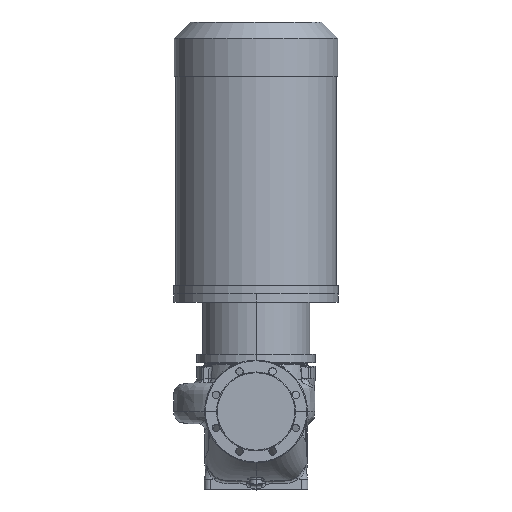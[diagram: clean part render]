
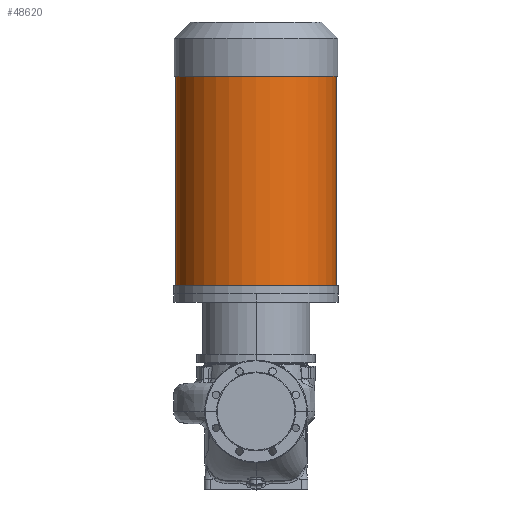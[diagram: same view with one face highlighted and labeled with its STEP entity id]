
A CAD part, top view. The second image highlights one B-rep face of the part: STEP entity #48620.
In plain terms, the highlighted cylindrical face has radius 195.5 mm (diameter 391 mm), a partial arc.
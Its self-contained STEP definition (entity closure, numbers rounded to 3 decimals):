
#1891 = CARTESIAN_POINT ( 'NONE',  ( -195.5, 813.8, 0. ) ) ;
#3634 = DIRECTION ( 'NONE',  ( 0., -1., 0. ) ) ;
#4481 = EDGE_CURVE ( 'NONE', #40210, #32037, #6363, .T. ) ;
#5642 = LINE ( 'NONE', #48552, #13166 ) ;
#6297 = AXIS2_PLACEMENT_3D ( 'NONE', #29167, #48525, #52903 ) ;
#6363 = LINE ( 'NONE', #31083, #54069 ) ;
#6693 = EDGE_CURVE ( 'NONE', #40210, #19218, #55474, .T. ) ;
#12231 = EDGE_CURVE ( 'NONE', #32037, #51964, #40489, .T. ) ;
#13166 = VECTOR ( 'NONE', #38773, 1000. ) ;
#14002 = CARTESIAN_POINT ( 'NONE',  ( 0., 813.8, 0. ) ) ;
#14015 = CARTESIAN_POINT ( 'NONE',  ( -195.5, 305.8, 0. ) ) ;
#19218 = VERTEX_POINT ( 'NONE', #1891 ) ;
#19973 = ORIENTED_EDGE ( 'NONE', *, *, #4481, .F. ) ;
#20561 = CARTESIAN_POINT ( 'NONE',  ( 195.5, 813.8, 0. ) ) ;
#22657 = ORIENTED_EDGE ( 'NONE', *, *, #6693, .T. ) ;
#27096 = FACE_OUTER_BOUND ( 'NONE', #27129, .T. ) ;
#27129 = EDGE_LOOP ( 'NONE', ( #19973, #22657, #57326, #55202 ) ) ;
#29167 = CARTESIAN_POINT ( 'NONE',  ( 0., 305.8, 0. ) ) ;
#31083 = CARTESIAN_POINT ( 'NONE',  ( 195.5, 285.8, 0. ) ) ;
#32037 = VERTEX_POINT ( 'NONE', #59354 ) ;
#37895 = EDGE_CURVE ( 'NONE', #19218, #51964, #5642, .T. ) ;
#38187 = DIRECTION ( 'NONE',  ( -1., 0., 0. ) ) ;
#38523 = AXIS2_PLACEMENT_3D ( 'NONE', #14002, #61702, #38187 ) ;
#38773 = DIRECTION ( 'NONE',  ( 0., -1., 0. ) ) ;
#40210 = VERTEX_POINT ( 'NONE', #20561 ) ;
#40489 = CIRCLE ( 'NONE', #6297, 195.5 ) ;
#40873 = DIRECTION ( 'NONE',  ( 0., -1., 0. ) ) ;
#41987 = DIRECTION ( 'NONE',  ( -1., 0., 0. ) ) ;
#48525 = DIRECTION ( 'NONE',  ( 0., -1., 0. ) ) ;
#48552 = CARTESIAN_POINT ( 'NONE',  ( -195.5, 285.8, 0. ) ) ;
#48620 = ADVANCED_FACE ( 'NONE', ( #27096 ), #56834, .T. ) ;
#50609 = AXIS2_PLACEMENT_3D ( 'NONE', #50760, #3634, #41987 ) ;
#50760 = CARTESIAN_POINT ( 'NONE',  ( 0., 285.8, 0. ) ) ;
#51964 = VERTEX_POINT ( 'NONE', #14015 ) ;
#52903 = DIRECTION ( 'NONE',  ( -1., 0., 0. ) ) ;
#54069 = VECTOR ( 'NONE', #40873, 1000. ) ;
#55202 = ORIENTED_EDGE ( 'NONE', *, *, #12231, .F. ) ;
#55474 = CIRCLE ( 'NONE', #38523, 195.5 ) ;
#56834 = CYLINDRICAL_SURFACE ( 'NONE', #50609, 195.5 ) ;
#57326 = ORIENTED_EDGE ( 'NONE', *, *, #37895, .T. ) ;
#59354 = CARTESIAN_POINT ( 'NONE',  ( 195.5, 305.8, 0. ) ) ;
#61702 = DIRECTION ( 'NONE',  ( 0., -1., 0. ) ) ;
